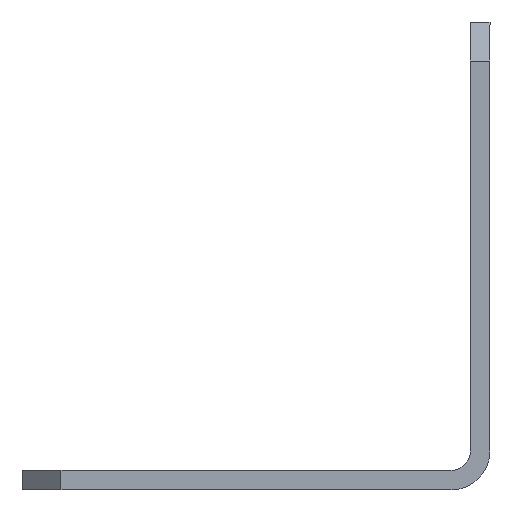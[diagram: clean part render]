
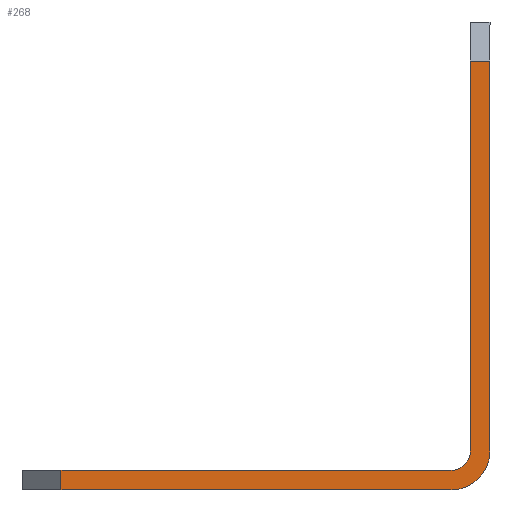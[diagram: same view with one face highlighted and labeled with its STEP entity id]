
A CAD part, left-side view. The second image highlights one B-rep face of the part: STEP entity #268.
In plain terms, the highlighted planar face has unit normal (-1, 0, 0).
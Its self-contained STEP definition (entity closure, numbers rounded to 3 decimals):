
#22 = ORIENTED_EDGE ( 'NONE', *, *, #1100, .F. ) ;
#51 = DIRECTION ( 'NONE',  ( 0., -1., 0. ) ) ;
#56 = ORIENTED_EDGE ( 'NONE', *, *, #236, .F. ) ;
#136 = CARTESIAN_POINT ( 'NONE',  ( -22.5, 25., -27.5 ) ) ;
#147 = VECTOR ( 'NONE', #1179, 1000. ) ;
#210 = CIRCLE ( 'NONE', #827, 5. ) ;
#236 = EDGE_CURVE ( 'NONE', #237, #1327, #500, .T. ) ;
#237 = VERTEX_POINT ( 'NONE', #1142 ) ;
#255 = EDGE_LOOP ( 'NONE', ( #1051, #403, #1053, #56, #22, #1087, #517, #670 ) ) ;
#268 = ADVANCED_FACE ( 'NONE', ( #911 ), #552, .F. ) ;
#275 = EDGE_CURVE ( 'NONE', #851, #747, #1190, .T. ) ;
#282 = VECTOR ( 'NONE', #325, 1000. ) ;
#325 = DIRECTION ( 'NONE',  ( 0., 0., -1. ) ) ;
#329 = CARTESIAN_POINT ( 'NONE',  ( -22.5, 0., -28.75 ) ) ;
#368 = CARTESIAN_POINT ( 'NONE',  ( -22.5, -25., -30. ) ) ;
#403 = ORIENTED_EDGE ( 'NONE', *, *, #1175, .F. ) ;
#431 = CARTESIAN_POINT ( 'NONE',  ( -22.5, 25., -28.75 ) ) ;
#432 = CARTESIAN_POINT ( 'NONE',  ( -22.5, -30., 25. ) ) ;
#452 = CARTESIAN_POINT ( 'NONE',  ( -22.5, -30., -28.75 ) ) ;
#464 = DIRECTION ( 'NONE',  ( 1., 0., 0. ) ) ;
#471 = AXIS2_PLACEMENT_3D ( 'NONE', #820, #928, #922 ) ;
#496 = CARTESIAN_POINT ( 'NONE',  ( -22.5, 0., -27.5 ) ) ;
#500 = LINE ( 'NONE', #431, #632 ) ;
#517 = ORIENTED_EDGE ( 'NONE', *, *, #275, .F. ) ;
#552 = PLANE ( 'NONE',  #1413 ) ;
#562 = CARTESIAN_POINT ( 'NONE',  ( -22.5, 0., -30. ) ) ;
#570 = EDGE_CURVE ( 'NONE', #1327, #1393, #1530, .T. ) ;
#575 = CARTESIAN_POINT ( 'NONE',  ( -22.5, -25., -25. ) ) ;
#594 = LINE ( 'NONE', #1341, #1038 ) ;
#609 = VERTEX_POINT ( 'NONE', #368 ) ;
#623 = DIRECTION ( 'NONE',  ( 0., 0., 1. ) ) ;
#632 = VECTOR ( 'NONE', #1375, 1000. ) ;
#670 = ORIENTED_EDGE ( 'NONE', *, *, #1462, .F. ) ;
#747 = VERTEX_POINT ( 'NONE', #1322 ) ;
#766 = CARTESIAN_POINT ( 'NONE',  ( -22.5, -27.5, -25. ) ) ;
#767 = EDGE_CURVE ( 'NONE', #887, #945, #1266, .T. ) ;
#804 = DIRECTION ( 'NONE',  ( 1., 0., 0. ) ) ;
#820 = CARTESIAN_POINT ( 'NONE',  ( -22.5, -25., -25. ) ) ;
#822 = CIRCLE ( 'NONE', #471, 2.5 ) ;
#827 = AXIS2_PLACEMENT_3D ( 'NONE', #575, #464, #935 ) ;
#851 = VERTEX_POINT ( 'NONE', #432 ) ;
#885 = CARTESIAN_POINT ( 'NONE',  ( -22.5, -27.5, 25. ) ) ;
#887 = VERTEX_POINT ( 'NONE', #766 ) ;
#911 = FACE_OUTER_BOUND ( 'NONE', #255, .T. ) ;
#922 = DIRECTION ( 'NONE',  ( 0., -1., 0. ) ) ;
#928 = DIRECTION ( 'NONE',  ( -1., 0., 0. ) ) ;
#935 = DIRECTION ( 'NONE',  ( 0., -1., 0. ) ) ;
#945 = VERTEX_POINT ( 'NONE', #885 ) ;
#1038 = VECTOR ( 'NONE', #51, 1000. ) ;
#1051 = ORIENTED_EDGE ( 'NONE', *, *, #767, .F. ) ;
#1053 = ORIENTED_EDGE ( 'NONE', *, *, #570, .F. ) ;
#1087 = ORIENTED_EDGE ( 'NONE', *, *, #1180, .F. ) ;
#1095 = VECTOR ( 'NONE', #1500, 1000. ) ;
#1100 = EDGE_CURVE ( 'NONE', #609, #237, #1172, .T. ) ;
#1142 = CARTESIAN_POINT ( 'NONE',  ( -22.5, 25., -30. ) ) ;
#1152 = VECTOR ( 'NONE', #623, 1000. ) ;
#1172 = LINE ( 'NONE', #562, #1095 ) ;
#1175 = EDGE_CURVE ( 'NONE', #1393, #887, #822, .T. ) ;
#1179 = DIRECTION ( 'NONE',  ( 0., -1., 0. ) ) ;
#1180 = EDGE_CURVE ( 'NONE', #747, #609, #210, .T. ) ;
#1190 = LINE ( 'NONE', #452, #282 ) ;
#1219 = CARTESIAN_POINT ( 'NONE',  ( -22.5, -25., -27.5 ) ) ;
#1230 = CARTESIAN_POINT ( 'NONE',  ( -22.5, -27.5, 0. ) ) ;
#1266 = LINE ( 'NONE', #1230, #1152 ) ;
#1269 = DIRECTION ( 'NONE',  ( 0., -1., 0. ) ) ;
#1322 = CARTESIAN_POINT ( 'NONE',  ( -22.5, -30., -25. ) ) ;
#1327 = VERTEX_POINT ( 'NONE', #136 ) ;
#1341 = CARTESIAN_POINT ( 'NONE',  ( -22.5, -15., 25. ) ) ;
#1375 = DIRECTION ( 'NONE',  ( 0., 0., 1. ) ) ;
#1393 = VERTEX_POINT ( 'NONE', #1219 ) ;
#1413 = AXIS2_PLACEMENT_3D ( 'NONE', #329, #804, #1269 ) ;
#1462 = EDGE_CURVE ( 'NONE', #945, #851, #594, .T. ) ;
#1500 = DIRECTION ( 'NONE',  ( 0., 1., 0. ) ) ;
#1530 = LINE ( 'NONE', #496, #147 ) ;
